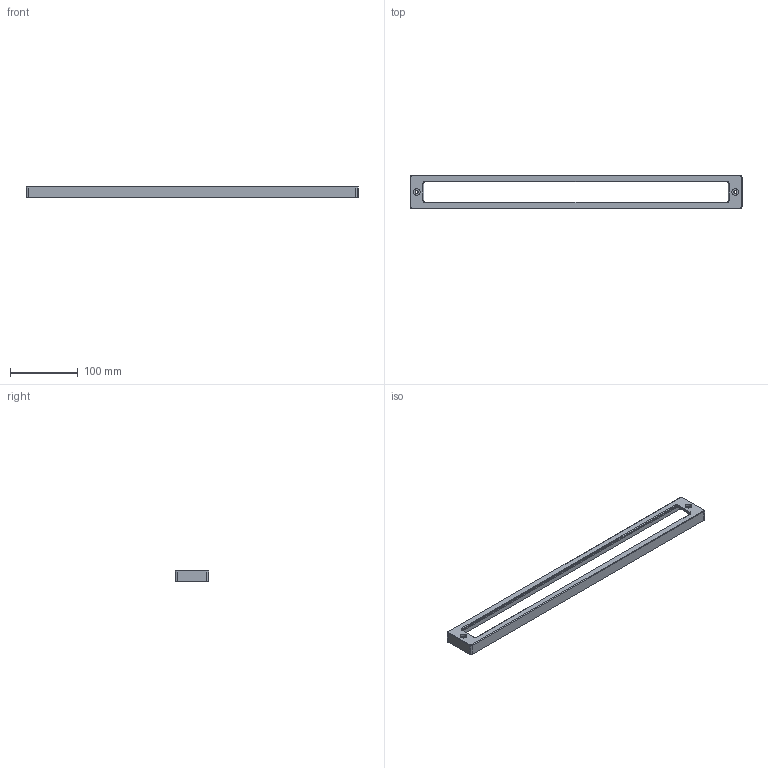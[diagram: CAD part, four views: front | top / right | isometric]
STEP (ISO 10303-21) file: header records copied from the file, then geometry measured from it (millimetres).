
FILE_DESCRIPTION(('STEP AP214'),'1');
FILE_NAME('F:/3D Zeichnungen/Konstruktionszeichnungen neuer Stand/tmp0.step','2023-09-20T13:39:41',(' '),(' '),'Spatial InterOp 3D',' ',' ');
FILE_SCHEMA(('automotive_design'));
Length unit declared in the file: millimetre
Products named in the file (1): 1
Bounding box: 490 x 50 x 17 mm (x, y, z)
Volume: 115721.4 mm3; surface area: 56565.2 mm2
Topology: 1 solids, 1 shells, 94 faces, 243 edges, 154 vertices
Faces by surface type: cylinder 42, plane 36, cone 16
Entity records: 3663 total; most frequent: DIRECTION 533, CARTESIAN_POINT 492, ORIENTED_EDGE 486, EDGE_CURVE 243, AXIS2_PLACEMENT_3D 195, VERTEX_POINT 154, LINE 143, VECTOR 143
